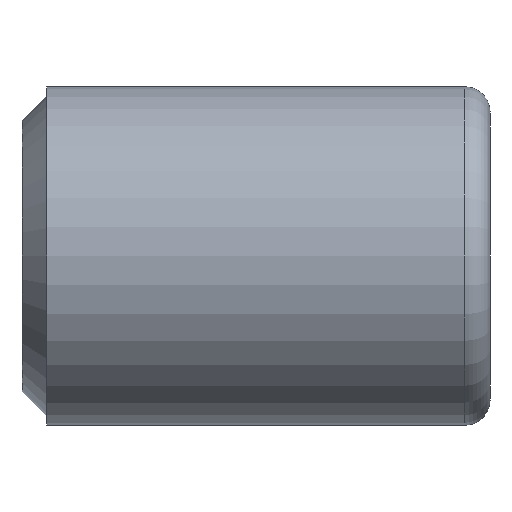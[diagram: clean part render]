
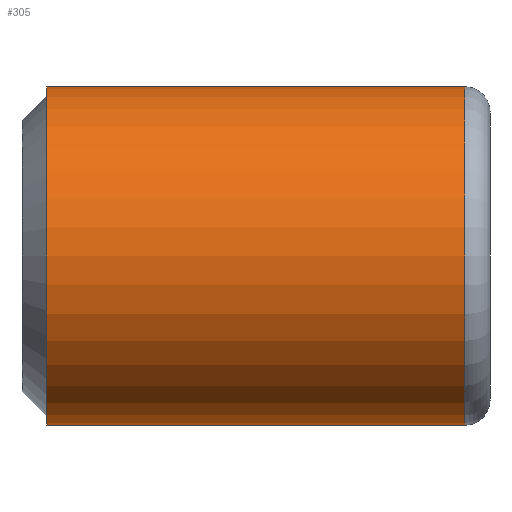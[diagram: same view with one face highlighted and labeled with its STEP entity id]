
A CAD part, front view. The second image highlights one B-rep face of the part: STEP entity #305.
In plain terms, the highlighted cylindrical face has radius 12.764 mm (diameter 25.527 mm), a partial arc.
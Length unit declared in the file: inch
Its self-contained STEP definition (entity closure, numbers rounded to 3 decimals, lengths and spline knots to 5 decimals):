
#11 = CIRCLE ( 'NONE', #780, 0.5025 ) ;
#61 = EDGE_CURVE ( 'NONE', #921, #460, #98, .T. ) ;
#97 = FACE_OUTER_BOUND ( 'NONE', #279, .T. ) ;
#98 = LINE ( 'NONE', #252, #891 ) ;
#123 = ORIENTED_EDGE ( 'NONE', *, *, #61, .T. ) ;
#162 = LINE ( 'NONE', #663, #881 ) ;
#218 = VERTEX_POINT ( 'NONE', #728 ) ;
#228 = AXIS2_PLACEMENT_3D ( 'NONE', #863, #807, #776 ) ;
#246 = CARTESIAN_POINT ( 'NONE',  ( 1.31424, 0., -0.5025 ) ) ;
#248 = DIRECTION ( 'NONE',  ( -1., 0., 0. ) ) ;
#252 = CARTESIAN_POINT ( 'NONE',  ( 0., 0., 0.5025 ) ) ;
#279 = EDGE_LOOP ( 'NONE', ( #653, #642, #123, #931 ) ) ;
#305 = ADVANCED_FACE ( 'NONE', ( #97 ), #329, .T. ) ;
#328 = EDGE_CURVE ( 'NONE', #218, #460, #398, .T. ) ;
#329 = CYLINDRICAL_SURFACE ( 'NONE', #751, 0.5025 ) ;
#337 = DIRECTION ( 'NONE',  ( 0., 0., 1. ) ) ;
#398 = CIRCLE ( 'NONE', #228, 0.5025 ) ;
#410 = EDGE_CURVE ( 'NONE', #427, #218, #162, .T. ) ;
#415 = DIRECTION ( 'NONE',  ( 0., 0., 1. ) ) ;
#427 = VERTEX_POINT ( 'NONE', #246 ) ;
#460 = VERTEX_POINT ( 'NONE', #890 ) ;
#642 = ORIENTED_EDGE ( 'NONE', *, *, #789, .T. ) ;
#653 = ORIENTED_EDGE ( 'NONE', *, *, #410, .F. ) ;
#663 = CARTESIAN_POINT ( 'NONE',  ( 0., 0., -0.5025 ) ) ;
#701 = CARTESIAN_POINT ( 'NONE',  ( 0., 0., 0. ) ) ;
#728 = CARTESIAN_POINT ( 'NONE',  ( 0.07274, 0., -0.5025 ) ) ;
#751 = AXIS2_PLACEMENT_3D ( 'NONE', #701, #787, #337 ) ;
#774 = DIRECTION ( 'NONE',  ( -1., 0., 0. ) ) ;
#776 = DIRECTION ( 'NONE',  ( 0., 0., 1. ) ) ;
#780 = AXIS2_PLACEMENT_3D ( 'NONE', #848, #774, #415 ) ;
#787 = DIRECTION ( 'NONE',  ( -1., 0., 0. ) ) ;
#789 = EDGE_CURVE ( 'NONE', #427, #921, #11, .T. ) ;
#807 = DIRECTION ( 'NONE',  ( -1., 0., 0. ) ) ;
#831 = DIRECTION ( 'NONE',  ( -1., 0., 0. ) ) ;
#848 = CARTESIAN_POINT ( 'NONE',  ( 1.31424, 0., 0. ) ) ;
#863 = CARTESIAN_POINT ( 'NONE',  ( 0.07274, 0., 0. ) ) ;
#881 = VECTOR ( 'NONE', #248, 39.37008 ) ;
#890 = CARTESIAN_POINT ( 'NONE',  ( 0.07274, 0., 0.5025 ) ) ;
#891 = VECTOR ( 'NONE', #831, 39.37008 ) ;
#906 = CARTESIAN_POINT ( 'NONE',  ( 1.31424, 0., 0.5025 ) ) ;
#921 = VERTEX_POINT ( 'NONE', #906 ) ;
#931 = ORIENTED_EDGE ( 'NONE', *, *, #328, .F. ) ;
